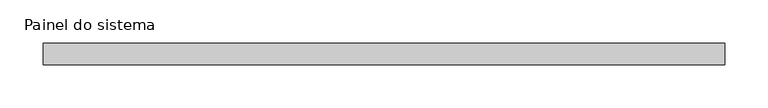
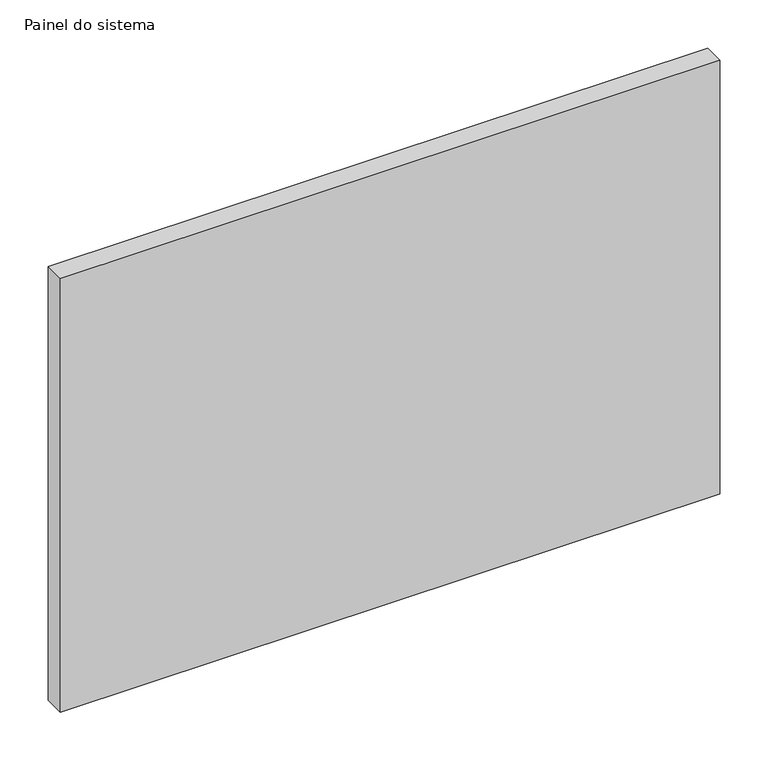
"""IFC4 building model written with IfcOpenShell, lengths in millimetres: plate geometry, Painel do sistema : Envidraçado."""

from ifc_helpers import new_model, si_unit, origin, origin_with_axes, place, context, project, spatial, polyline, outline, extrude, source, transform, mapped, element, save


def painel_do_sistema_7d8d7e3c(model_context):
    return source(origin(), model_context, "Body", "SweptSolid", [
        extrude(outline(polyline([(395.0, 24.5), (-395.0, 24.5), (-395.0, 49.5), (395.0, 49.5), (395.0, 24.5)])), origin_with_axes(), (0.0, 0.0, 1.0), 550.0),
    ])


if __name__ == "__main__":
    model = new_model("IFC4")
    model_context = context("Model", 3, world=origin())
    ifc_project = project(units=[si_unit("LENGTHUNIT", "METRE", prefix="MILLI")], contexts=[model_context])
    site = spatial("IfcSite", under=ifc_project)
    building = spatial("IfcBuilding", under=site)
    placement = place(None, origin())
    painel_do_sistema_shape = painel_do_sistema_7d8d7e3c(model_context)
    element("IfcPlate", 1, ObjectType="Painel do sistema : Envidraçado", at=placement, inside=building, context=model_context, shape_type="MappedRepresentation", body=[
        mapped(painel_do_sistema_shape, transform((0.0, 0.0, 0.0), x_axis=(1.0, 0.0, 0.0), y_axis=(0.0, 1.0, 0.0), z_axis=(0.0, 0.0, 1.0))),
    ])
    save(model, "model.ifc")
